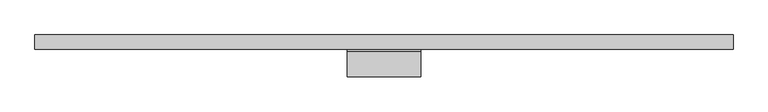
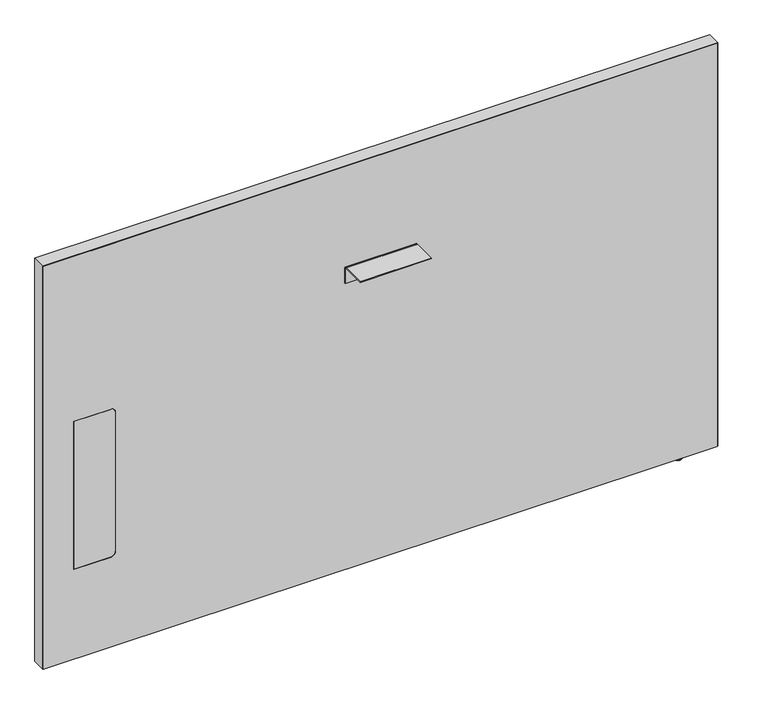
"""IFC4 building model written with IfcOpenShell, lengths in millimetres: furniture geometry, Steelcase - Answer Solution - Boundary Screen - Straight - Single Sided : 36H x 57W."""

from ifc_helpers import new_model, si_unit, point, frame, frame_2d, origin, place, context, project, spatial, polyline, circle_curve, ellipse_curve, trimmed, segment, composite_curve, outline, extrude, source, transform, mapped, element, save
from ifc_brep_helpers import plane_surface, cylinder_surface, revolved_surface, advanced_brep


def furniture_ad80db6b(model_context):
    return source(origin(), model_context, "Body", "SolidModel", [
        extrude(outline(composite_curve([segment(polyline([(-86.8398151, 696.4680019), (-86.8398151, 698.5), (-34.9450855, 698.5)]), True, "CONTINUOUS"), segment(trimmed(circle_curve(frame_2d((-34.9450855, 693.2447477)), 5.2552523), [point((-34.9450855, 698.5))], [point((-29.6898332, 693.2447477))], False, "CARTESIAN"), True, "CONTINUOUS"), segment(polyline([(-29.6898332, 693.2447477), (-29.6898332, 660.4), (-31.7218162, 660.4), (-31.7218162, 693.0058743)]), True, "CONTINUOUS"), segment(trimmed(circle_curve(frame_2d((-35.1839438, 693.0058743)), 3.4621276), [point((-31.7218162, 693.0058743))], [point((-35.1839438, 696.4680019))], True, "CARTESIAN"), True, "CONTINUOUS"), segment(polyline([(-35.1839438, 696.4680019), (-86.8398151, 696.4680019)]), True, "CONTINUOUS")], self_intersect=False)), frame((1.2191407, 0.0, 0.0), z_axis=(1.0, 0.0, 0.0), x_axis=(0.0, 1.0, 0.0)), (0.0, 0.0, 1.0), 152.4000969),
        advanced_brep(
        [(724.1286488, -23.7588726, 9.9059849), (724.1286488, -5.9309607, 9.9059849), (724.1286488, -14.8449166, 9.9059849), (724.1286488, -23.7588726, 2.9673238), (724.1286488, -5.9309607, 2.9673238), (724.1286488, -22.7915354, 2.9673238), (724.1286488, -6.8982978, 2.9673238), (724.1286488, -22.7915354, 1.6569081), (724.1286488, -6.8982978, 1.6569081), (724.1286488, -21.1346274, 0.0), (724.1286488, -8.5552059, 0.0), (724.1286488, -14.8449166, 0.0)],
        [
            (0, 1, circle_curve(frame((724.1286488, -14.8449166, 9.9059849), z_axis=(0.0, 0.0, 1.0), x_axis=(0.0, 1.0, 0.0)), 8.913956)),
            (1, 2),
            (2, 0),
            (1, 0, circle_curve(frame((724.1286488, -14.8449166, 9.9059849), z_axis=(0.0, 0.0, 1.0), x_axis=(0.0, 1.0, 0.0)), 8.913956)),
            (3, 4, circle_curve(frame((724.1286488, -14.8449166, 2.9673238), z_axis=(0.0, 0.0, 1.0), x_axis=(0.0, 1.0, 0.0)), 8.913956)),
            (4, 1),
            (0, 3),
            (4, 3, circle_curve(frame((724.1286488, -14.8449166, 2.9673238), z_axis=(0.0, 0.0, 1.0), x_axis=(0.0, 1.0, 0.0)), 8.913956)),
            (5, 6, circle_curve(frame((724.1286488, -14.8449166, 2.9673238), z_axis=(0.0, 0.0, 1.0), x_axis=(0.0, 1.0, 0.0)), 7.9466188)),
            (6, 4),
            (3, 5),
            (6, 5, circle_curve(frame((724.1286488, -14.8449166, 2.9673238), z_axis=(0.0, 0.0, 1.0), x_axis=(0.0, 1.0, 0.0)), 7.9466188)),
            (7, 8, circle_curve(frame((724.1286488, -14.8449166, 1.6569081), z_axis=(0.0, 0.0, 1.0), x_axis=(0.0, 1.0, 0.0)), 7.9466188)),
            (8, 6),
            (5, 7),
            (8, 7, circle_curve(frame((724.1286488, -14.8449166, 1.6569081), z_axis=(0.0, 0.0, 1.0), x_axis=(0.0, 1.0, 0.0)), 7.9466188)),
            (9, 10, circle_curve(frame((724.1286488, -14.8449166, 0.0), z_axis=(0.0, 0.0, 1.0), x_axis=(0.0, 1.0, 0.0)), 6.2897107)),
            (10, 8, circle_curve(frame((724.1286488, -8.5552059, 1.6569081), z_axis=(1.0, 0.0, 0.0), x_axis=(0.0, 1.0, 0.0)), 1.6569081)),
            (7, 9, circle_curve(frame((724.1286488, -21.1346274, 1.6569081), z_axis=(1.0, 0.0, 0.0), x_axis=(0.0, -1.0, 0.0)), 1.6569081)),
            (10, 9, circle_curve(frame((724.1286488, -14.8449166, 0.0), z_axis=(0.0, 0.0, 1.0), x_axis=(0.0, 1.0, 0.0)), 6.2897107)),
            (11, 10),
            (9, 11),
        ],
        [
            plane_surface(frame((724.1286488, -14.8449166, 9.9059849), z_axis=(0.0, 0.0, 1.0), x_axis=(0.0, 1.0, 0.0))),
            cylinder_surface(frame((724.1286488, -14.8449166, 9.9059849), z_axis=(0.0, 0.0, -1.0), x_axis=(0.0, 1.0, 0.0)), 8.913956),
            plane_surface(frame((724.1286488, -14.8449166, 2.9673238), z_axis=(0.0, 0.0, -1.0), x_axis=(0.0, 1.0, 0.0))),
            cylinder_surface(frame((724.1286488, -14.8449166, 9.9059849), z_axis=(0.0, 0.0, -1.0), x_axis=(0.0, 1.0, 0.0)), 7.9466188),
            revolved_surface(trimmed(ellipse_curve(frame((724.1286488, -8.5552059, 1.6569081), z_axis=(-1.0, 0.0, 0.0), x_axis=(0.0, 1.0, 0.0)), 1.6569081, 1.6569081), [point((724.1286488, -6.8982978, 1.6569081))], [point((724.1286488, -8.5552059, 0.0))], True, "CARTESIAN"), (724.1286488, -14.8449166, 9.9059849), (0.0, 0.0, -1.0)),
            plane_surface(frame((724.1286488, -14.8449166, 0.0), z_axis=(0.0, 0.0, -1.0), x_axis=(0.0, 1.0, 0.0))),
        ],
        [
            (0, [[1, 2, 3]]),
            (0, [[4, -3, -2]]),
            (1, [[5, 6, -1, 7]]),
            (1, [[8, -7, -4, -6]]),
            (2, [[9, 10, -5, 11]]),
            (2, [[12, -11, -8, -10]]),
            (3, [[13, 14, -9, 15]]),
            (3, [[16, -15, -12, -14]]),
            (4, [[17, 18, -13, 19]]),
            (4, [[20, -19, -16, -18]]),
            (5, [[21, -17, 22]]),
            (5, [[-22, -20, -21]]),
        ],
    ),
        advanced_brep(
        [(800.2780168, 0.0, 924.342118), (800.2780168, 0.0, 9.9059849), (-645.4902221, 0.0, 9.9059849), (-645.4902221, 0.0, 924.342118), (800.2780168, -29.6898332, 924.342118), (-645.4902221, -29.6898332, 924.342118), (-645.4902221, -29.6898332, 9.9059849), (800.2780168, -29.6898332, 9.9059849), (-501.1463873, -29.6898332, 549.6162029), (-490.9863873, -29.6898332, 539.4562029), (-490.9863873, -29.6898332, 223.9362137), (-501.1463873, -29.6898332, 213.7762137), (-580.800285, -29.6898332, 213.7762137), (-580.800285, -29.6898332, 549.6162029), (-580.800285, -29.0550397, 549.6162029), (-501.1463873, -29.0550397, 549.6162029), (-580.800285, -29.0550397, 213.7762137), (-501.1463873, -29.0550397, 213.7762137), (-490.9863873, -29.0550397, 223.9362137), (-490.9863873, -29.0550397, 539.4562029)],
        [
            (0, 1),
            (1, 2),
            (2, 3),
            (3, 0),
            (4, 5),
            (5, 6),
            (6, 7),
            (7, 4),
            (8, 9, circle_curve(frame((-501.1463873, -29.6898332, 539.4562029), z_axis=(0.0, 1.0, 0.0), x_axis=(0.0, 0.0, 1.0)), 10.16)),
            (9, 10),
            (10, 11, circle_curve(frame((-501.1463873, -29.6898332, 223.9362137), z_axis=(0.0, 1.0, 0.0), x_axis=(0.0, 0.0, 1.0)), 10.16)),
            (11, 12),
            (12, 13),
            (13, 8),
            (0, 4),
            (7, 1),
            (6, 2),
            (5, 3),
            (13, 14),
            (14, 15),
            (15, 8),
            (12, 16),
            (16, 14),
            (11, 17),
            (17, 16),
            (10, 18),
            (18, 17, circle_curve(frame((-501.1463873, -29.0550397, 223.9362137), z_axis=(0.0, 1.0, 0.0), x_axis=(0.0, 0.0, 1.0)), 10.16)),
            (9, 19),
            (19, 18),
            (15, 19, circle_curve(frame((-501.1463873, -29.0550397, 539.4562029), z_axis=(0.0, 1.0, 0.0), x_axis=(0.0, 0.0, 1.0)), 10.16)),
        ],
        [
            plane_surface(frame((800.2780168, 0.0, 924.342118), z_axis=(0.0, 1.0, 0.0), x_axis=(0.0, 0.0, -1.0))),
            plane_surface(frame((800.2780168, -29.6898332, 924.342118), z_axis=(0.0, -1.0, 0.0), x_axis=(0.0, 0.0, 1.0))),
            plane_surface(frame((800.2780168, 0.0, 924.342118), z_axis=(1.0, 0.0, 0.0), x_axis=(0.0, -1.0, 0.0))),
            plane_surface(frame((800.2780168, 0.0, 9.9059849), z_axis=(0.0, 0.0, -1.0), x_axis=(0.0, -1.0, 0.0))),
            plane_surface(frame((-645.4902221, 0.0, 9.9059849), z_axis=(-1.0, 0.0, 0.0), x_axis=(0.0, -1.0, 0.0))),
            plane_surface(frame((-645.4902221, 0.0, 924.342118), z_axis=(0.0, 0.0, 1.0), x_axis=(0.0, -1.0, 0.0))),
            plane_surface(frame((-501.1463873, 0.0, 549.6162029), z_axis=(0.0, 0.0, -1.0), x_axis=(0.0, -1.0, 0.0))),
            plane_surface(frame((-580.800285, 0.0, 549.6162029), z_axis=(1.0, 0.0, 0.0), x_axis=(0.0, -1.0, 0.0))),
            plane_surface(frame((-580.800285, 0.0, 213.7762137), z_axis=(0.0, 0.0, 1.0), x_axis=(0.0, -1.0, 0.0))),
            revolved_surface(polyline([(-501.1463873, -29.6898332, 234.0962137), (-501.1463873, -29.0550397, 234.0962137)]), (-501.1463873, -29.6898332, 223.9362137), (0.0, -1.0, 0.0)),
            plane_surface(frame((-490.9863873, 0.0, 223.9362137), z_axis=(-1.0, 0.0, 0.0), x_axis=(0.0, -1.0, 0.0))),
            revolved_surface(polyline([(-501.1463873, -29.6898332, 549.6162029), (-501.1463873, -29.0550397, 549.6162029)]), (-501.1463873, -29.6898332, 539.4562029), (0.0, -1.0, 0.0)),
            plane_surface(frame((-490.9863873, -29.0550397, 629.172953), z_axis=(0.0, -1.0, 0.0), x_axis=(0.0, 0.0, 1.0))),
        ],
        [
            (0, [[1, 2, 3, 4]]),
            (1, [[5, 6, 7, 8], [9, 10, 11, 12, 13, 14]]),
            (2, [[-1, 15, -8, 16]]),
            (3, [[-2, -16, -7, 17]]),
            (4, [[-3, -17, -6, 18]]),
            (5, [[-4, -18, -5, -15]]),
            (6, [[-14, 19, 20, 21]]),
            (7, [[-13, 22, 23, -19]]),
            (8, [[-12, 24, 25, -22]]),
            (9, [[-11, 26, 27, -24]]),
            (10, [[-10, 28, 29, -26]]),
            (11, [[-9, -21, 30, -28]]),
            (12, [[-20, -23, -25, -27, -29, -30]]),
        ],
    ),
        extrude(outline(composite_curve([segment(polyline([(549.6162029, -501.1463873), (549.6162029, -580.800285), (213.7762137, -580.800285), (213.7762137, -501.1463873)]), True, "CONTINUOUS"), segment(trimmed(circle_curve(frame_2d((223.9362137, -501.1463873)), 10.16), [point((213.7762137, -501.1463873))], [point((223.9362137, -490.9863873))], False, "CARTESIAN"), True, "CONTINUOUS"), segment(polyline([(223.9362137, -490.9863873), (539.4562029, -490.9863873)]), True, "CONTINUOUS"), segment(trimmed(circle_curve(frame_2d((539.4562029, -501.1463873)), 10.16), [point((539.4562029, -490.9863873))], [point((549.6162029, -501.1463873))], False, "CARTESIAN"), True, "CONTINUOUS")], self_intersect=False)), frame((0.0, -29.6898332, 0.0), z_axis=(0.0, 1.0, 0.0), x_axis=(0.0, 0.0, 1.0)), (0.0, 0.0, 1.0), 0.6347935),
        extrude(outline(polyline([(925.322, 801.3191891), (925.322, -646.4808109), (9.9059849, -646.4808109), (9.9059849, -645.4902221), (924.342118, -645.4902221), (924.342118, 800.2780168), (9.9059849, 800.2780168), (9.9059849, 801.3191891), (925.322, 801.3191891)])), frame((0.0, -29.6898332, 0.0), z_axis=(0.0, 1.0, 0.0), x_axis=(0.0, 0.0, 1.0)), (0.0, 0.0, 1.0), 29.6898332),
    ])


if __name__ == "__main__":
    model = new_model("IFC4")
    model_context = context("Model", 3, world=origin())
    ifc_project = project(units=[si_unit("LENGTHUNIT", "METRE", prefix="MILLI")], contexts=[model_context])
    site = spatial("IfcSite", under=ifc_project)
    building = spatial("IfcBuilding", under=site)
    placement = place(None, origin())
    furniture_shape = furniture_ad80db6b(model_context)
    element("IfcFurniture", 1, ObjectType="Steelcase - Answer Solution - Boundary Screen - Straight - Single Sided : 36H x 57W", at=placement, inside=building, context=model_context, shape_type="MappedRepresentation", body=[
        mapped(furniture_shape, transform((0.0, 0.0, 0.0), x_axis=(1.0, 0.0, 0.0), y_axis=(0.0, 1.0, 0.0), z_axis=(0.0, 0.0, 1.0))),
    ])
    save(model, "model.ifc")
